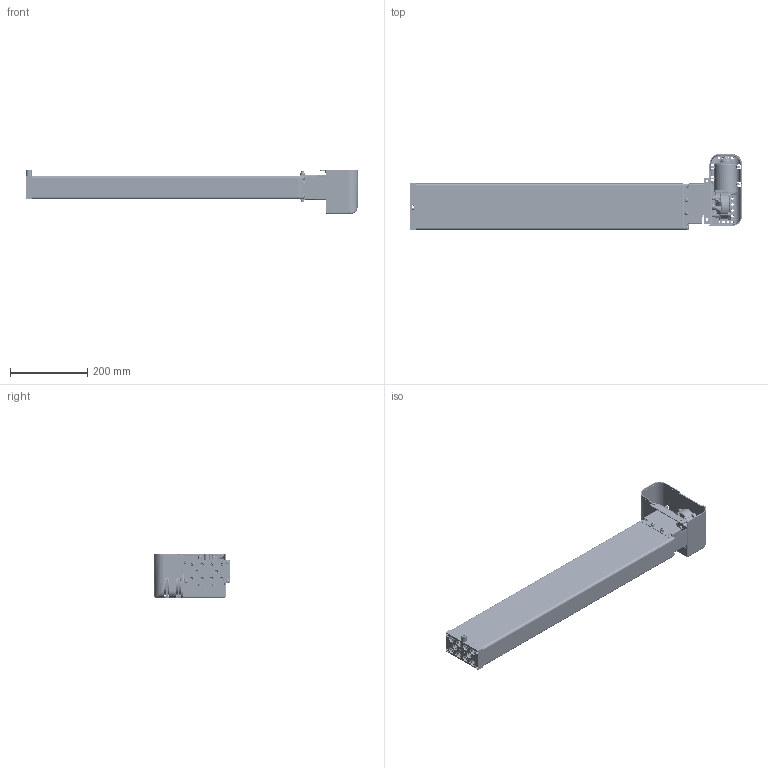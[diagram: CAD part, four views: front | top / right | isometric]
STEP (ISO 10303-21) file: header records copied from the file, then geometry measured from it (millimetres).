
FILE_DESCRIPTION(/* description */ ('Unknown'),/* implementation_level */ '2;1');
FILE_NAME(/* name */ '3X2.20187 Pumpe PB 0430 W mit Antrieb',/* time_stamp */ '2016-11-03T15:55:07+01:00',/* author */ ('Unknown'),/* organization */ ('Unknown'),/* preprocessor_version */ 'ST-DEVELOPER v16.7',/* originating_system */ 'DEX',/* authorisation */ $);
FILE_SCHEMA (('AUTOMOTIVE_DESIGN {1 0 10303 214 3 1 1}'));
Products named in the file (32): 102.00187; 115.10025; 125.00031; 115.00007; 142.00021; 125.00021; 142.00013; 125.00145; 115.00140; 126.00006; 122.00040; 119.00045; 126.00036; 127.00201; 127.00200; 127.00023; 124.00090; Getriebe; Ring; Schraube; Stator; Abdeckplatte; Antriebswelle; 128.00051; 123.00031; 142.00018; 142.00019; 142.00025; 142.00131; 123.00029; 142.00057; 142.00017
Assembly tree (53 placements, depth 3):
  102.00187
    115.10025  x10
      125.00031
      115.00007
      142.00021
      125.00021
    142.00013  x8
    125.00145
    115.00140
      126.00006
      122.00040
    119.00045
    126.00036
    127.00201
      127.00200
      127.00023
    124.00090
      Getriebe
      Ring
      Schraube
      Stator
      Abdeckplatte
      Antriebswelle
    128.00051
    123.00031
    142.00018  x2
    142.00019  x2
    142.00025  x2
    142.00131  x3
    123.00029
    142.00057
    142.00017  x2
Bounding box: 858.45 x 196.04 x 115.45 mm (x, y, z)
Volume: 1371847.7 mm3; surface area: 905555 mm2
Topology: 66 solids, 68 shells, 4468 faces, 11188 edges, 6869 vertices
Faces by surface type: plane 1403, cylinder 1208, bspline 1040, cone 517, torus 200, sphere 100
Full cylindrical faces by diameter (mm): 2.5 x4, 3.2 x4, 3.5 x10, 3.9 x5, 4.1 x10, 4.134 x4, 4.2 x12, 4.4 x5, 4.5 x1, 4.917 x4, 5 x8, 5.5 x5, 5.8 x4, 6 x8, 6.4 x2, 6.8 x6, 6.917 x20, 7 x1, 8 x22, 8.5 x6, 9 x12, 9.5 x1, 9.8 x8, 10 x10, 10.3 x1, 10.32 x1, 10.4 x1, 10.5 x4, 11 x5, 12.5 x10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
Entity records: 164952 total; most frequent: CARTESIAN_POINT 80622, ORIENTED_EDGE 16008, DIRECTION 12027, EDGE_CURVE 8004, VERTEX_POINT 5254, AXIS2_PLACEMENT_3D 4657, FACE_BOUND 4000, EDGE_LOOP 3995
